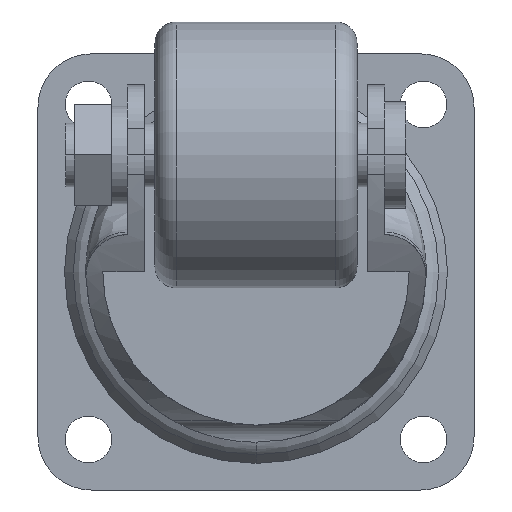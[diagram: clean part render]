
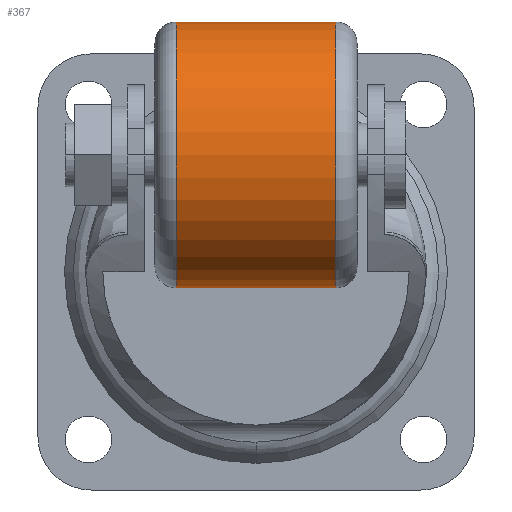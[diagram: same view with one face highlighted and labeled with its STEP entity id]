
A CAD part, front view. The second image highlights one B-rep face of the part: STEP entity #367.
In plain terms, the highlighted cylindrical face has radius 25 mm (diameter 50 mm), a partial arc.
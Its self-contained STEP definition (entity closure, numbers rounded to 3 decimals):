
#12 = ORIENTED_EDGE ( 'NONE', *, *, #191, .T. ) ;
#71 = EDGE_LOOP ( 'NONE', ( #236, #12, #1071, #3247 ) ) ;
#191 = EDGE_CURVE ( 'NONE', #3028, #1182, #258, .T. ) ;
#236 = ORIENTED_EDGE ( 'NONE', *, *, #943, .F. ) ;
#258 = CIRCLE ( 'NONE', #2633, 25. ) ;
#367 = ADVANCED_FACE ( 'NONE', ( #3160 ), #1526, .T. ) ;
#601 = VECTOR ( 'NONE', #716, 1000. ) ;
#716 = DIRECTION ( 'NONE',  ( -1., 0., 0. ) ) ;
#889 = CARTESIAN_POINT ( 'NONE',  ( -15., 0., -25. ) ) ;
#942 = CARTESIAN_POINT ( 'NONE',  ( 15., 0., 25. ) ) ;
#943 = EDGE_CURVE ( 'NONE', #3028, #3217, #2039, .T. ) ;
#1066 = CARTESIAN_POINT ( 'NONE',  ( 15., 0., 0. ) ) ;
#1071 = ORIENTED_EDGE ( 'NONE', *, *, #1782, .T. ) ;
#1182 = VERTEX_POINT ( 'NONE', #942 ) ;
#1490 = CARTESIAN_POINT ( 'NONE',  ( -15., 0., 25. ) ) ;
#1507 = DIRECTION ( 'NONE',  ( -1., 0., 0. ) ) ;
#1526 = CYLINDRICAL_SURFACE ( 'NONE', #3113, 25. ) ;
#1543 = CARTESIAN_POINT ( 'NONE',  ( 19., 0., 0. ) ) ;
#1553 = DIRECTION ( 'NONE',  ( -1., 0., 0. ) ) ;
#1782 = EDGE_CURVE ( 'NONE', #1182, #2070, #2488, .T. ) ;
#1809 = DIRECTION ( 'NONE',  ( 0., 0., 1. ) ) ;
#1907 = CIRCLE ( 'NONE', #3382, 25. ) ;
#1974 = EDGE_CURVE ( 'NONE', #2070, #3217, #1907, .T. ) ;
#2039 = LINE ( 'NONE', #2404, #601 ) ;
#2070 = VERTEX_POINT ( 'NONE', #1490 ) ;
#2073 = DIRECTION ( 'NONE',  ( 0., 0., -1. ) ) ;
#2404 = CARTESIAN_POINT ( 'NONE',  ( 19., 0., -25. ) ) ;
#2471 = CARTESIAN_POINT ( 'NONE',  ( 19., 0., 25. ) ) ;
#2488 = LINE ( 'NONE', #2471, #3515 ) ;
#2633 = AXIS2_PLACEMENT_3D ( 'NONE', #1066, #4027, #4046 ) ;
#2683 = DIRECTION ( 'NONE',  ( 1., 0., 0. ) ) ;
#2703 = CARTESIAN_POINT ( 'NONE',  ( -15., 0., 0. ) ) ;
#3028 = VERTEX_POINT ( 'NONE', #3256 ) ;
#3113 = AXIS2_PLACEMENT_3D ( 'NONE', #1543, #1507, #1809 ) ;
#3160 = FACE_OUTER_BOUND ( 'NONE', #71, .T. ) ;
#3217 = VERTEX_POINT ( 'NONE', #889 ) ;
#3247 = ORIENTED_EDGE ( 'NONE', *, *, #1974, .T. ) ;
#3256 = CARTESIAN_POINT ( 'NONE',  ( 15., 0., -25. ) ) ;
#3382 = AXIS2_PLACEMENT_3D ( 'NONE', #2703, #2683, #2073 ) ;
#3515 = VECTOR ( 'NONE', #1553, 1000. ) ;
#4027 = DIRECTION ( 'NONE',  ( -1., 0., 0. ) ) ;
#4046 = DIRECTION ( 'NONE',  ( 0., 0., -1. ) ) ;
